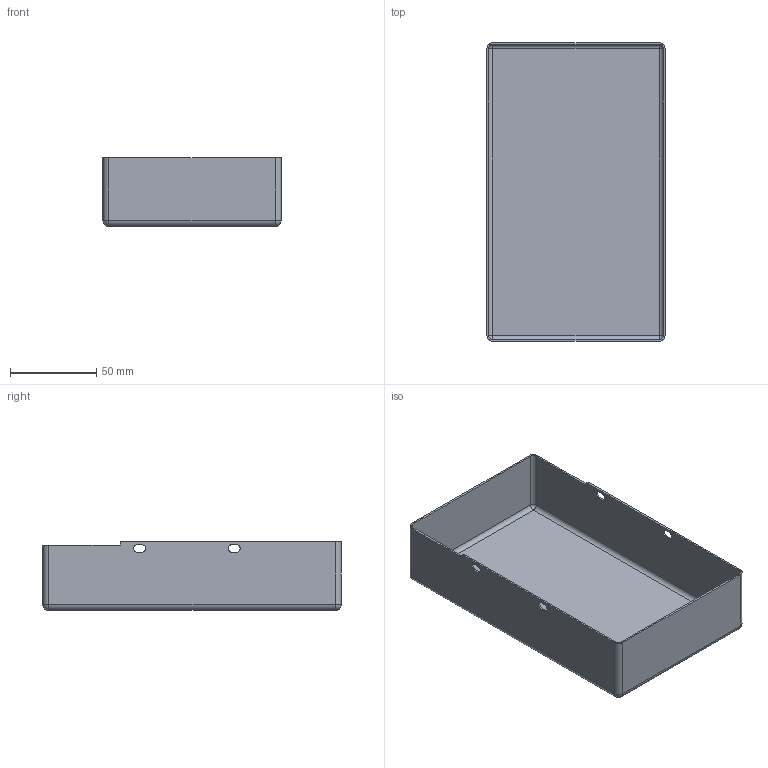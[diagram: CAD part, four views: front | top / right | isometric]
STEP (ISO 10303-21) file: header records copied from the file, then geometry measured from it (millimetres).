
FILE_DESCRIPTION (( 'STEP AP203' ), '1' );
FILE_NAME ('627.005.003-1.STEP', '2013-01-29T10:02:47', ( 'Alusic' ), ( 'Alusic' ), 'SwSTEP 2.0', 'SolidWorks 2011', '' );
FILE_SCHEMA (( 'CONFIG_CONTROL_DESIGN' ));
Length unit declared in the file: millimetre
Products named in the file (1): 627.005.003-1
Bounding box: 103.5 x 173.5 x 40 mm (x, y, z)
Volume: 37860.4 mm3; surface area: 76709.1 mm2
Topology: 1 solids, 1 shells, 99 faces, 263 edges, 162 vertices
Faces by surface type: plane 51, cylinder 32, sphere 8, bspline 8
Entity records: 3122 total; most frequent: CARTESIAN_POINT 621, ORIENTED_EDGE 510, DIRECTION 487, EDGE_CURVE 255, LINE 175, VECTOR 175, VERTEX_POINT 162, AXIS2_PLACEMENT_3D 156
